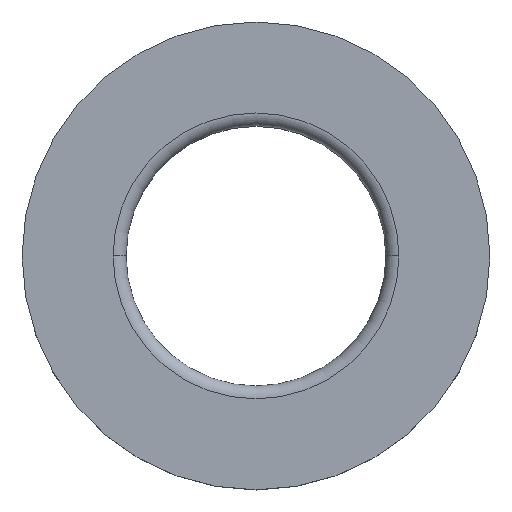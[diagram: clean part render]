
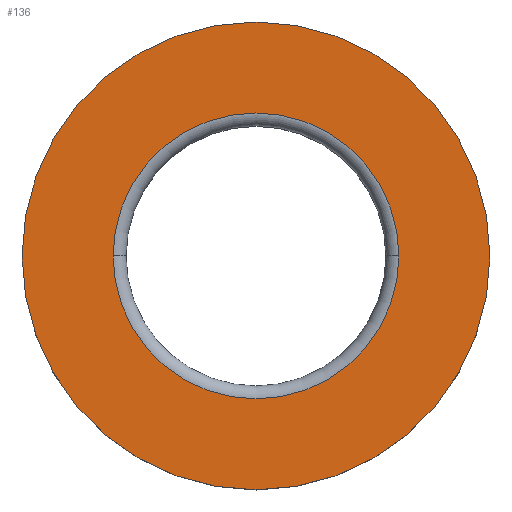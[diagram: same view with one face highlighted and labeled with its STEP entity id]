
A CAD part, top view. The second image highlights one B-rep face of the part: STEP entity #136.
In plain terms, the highlighted planar face has unit normal (0, 0, 1).
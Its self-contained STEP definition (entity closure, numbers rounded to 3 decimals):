
#136=ADVANCED_FACE('',(#147,#148),#143,.T.);
#143=PLANE('',#305);
#147=FACE_BOUND('',#159,.T.);
#148=FACE_BOUND('',#160,.T.);
#159=EDGE_LOOP('',(#195,#196));
#160=EDGE_LOOP('',(#197,#198));
#195=ORIENTED_EDGE('',*,*,#251,.F.);
#196=ORIENTED_EDGE('',*,*,#252,.F.);
#197=ORIENTED_EDGE('',*,*,#250,.T.);
#198=ORIENTED_EDGE('',*,*,#248,.T.);
#227=VERTEX_POINT('',#416);
#228=VERTEX_POINT('',#418);
#229=VERTEX_POINT('',#424);
#230=VERTEX_POINT('',#425);
#248=EDGE_CURVE('',#228,#227,#272,.T.);
#250=EDGE_CURVE('',#227,#228,#274,.T.);
#251=EDGE_CURVE('',#229,#230,#275,.T.);
#252=EDGE_CURVE('',#230,#229,#276,.T.);
#272=CIRCLE('',#298,5.5);
#274=CIRCLE('',#301,5.5);
#275=CIRCLE('',#303,9.);
#276=CIRCLE('',#304,9.);
#298=AXIS2_PLACEMENT_3D('',#417,#351,#352);
#301=AXIS2_PLACEMENT_3D('',#421,#357,#358);
#303=AXIS2_PLACEMENT_3D('',#423,#361,#362);
#304=AXIS2_PLACEMENT_3D('',#426,#363,#364);
#305=AXIS2_PLACEMENT_3D('',#427,#365,#366);
#351=DIRECTION('',(0.,0.,-1.));
#352=DIRECTION('',(0.,1.,0.));
#357=DIRECTION('',(0.,0.,-1.));
#358=DIRECTION('',(0.,-1.,0.));
#361=DIRECTION('',(0.,0.,-1.));
#362=DIRECTION('',(0.,1.,0.));
#363=DIRECTION('',(0.,0.,-1.));
#364=DIRECTION('',(0.,-1.,0.));
#365=DIRECTION('',(0.,0.,1.));
#366=DIRECTION('',(0.,-1.,0.));
#416=CARTESIAN_POINT('',(-5.5,0.,3.));
#417=CARTESIAN_POINT('',(0.,0.,3.));
#418=CARTESIAN_POINT('',(5.5,0.,3.));
#421=CARTESIAN_POINT('',(0.,0.,3.));
#423=CARTESIAN_POINT('',(0.,0.,3.));
#424=CARTESIAN_POINT('',(9.,0.,3.));
#425=CARTESIAN_POINT('',(-9.,0.,3.));
#426=CARTESIAN_POINT('',(0.,0.,3.));
#427=CARTESIAN_POINT('',(0.,0.,3.));
